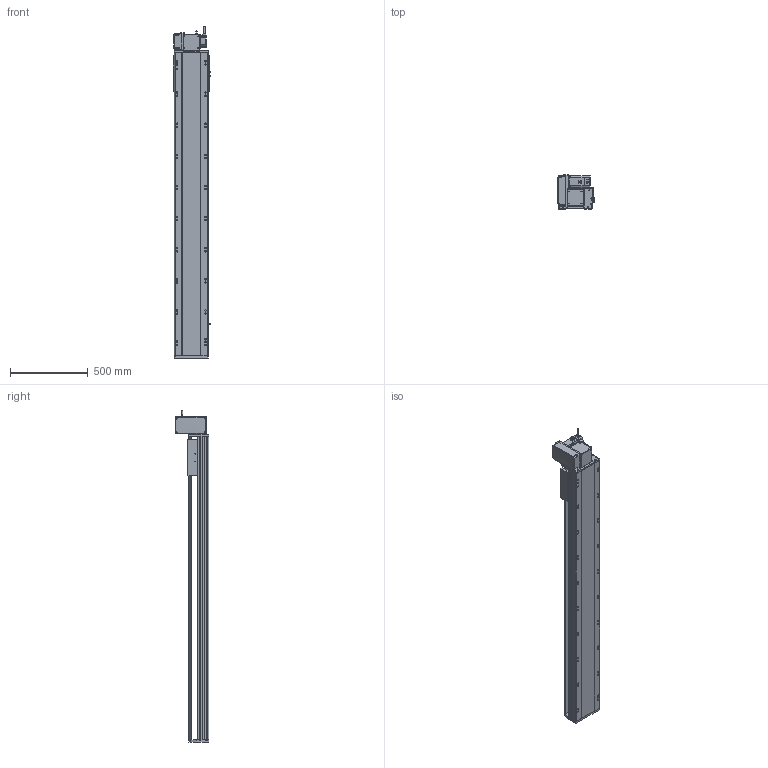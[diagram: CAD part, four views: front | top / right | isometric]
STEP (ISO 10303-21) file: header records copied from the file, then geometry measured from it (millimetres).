
FILE_DESCRIPTION (( 'STEP AP214' ), '1' );
FILE_NAME ('RTB22S-XX-1600-LW-M75-C4.STEP', '2025-12-12T05:58:27', ( '' ), ( '' ), 'SwSTEP 2.0', 'SolidWorks 2018', '' );
FILE_SCHEMA (( 'AUTOMOTIVE_DESIGN' ));
Length unit declared in the file: millimetre
Products named in the file (14): RTB22S-LW-々湍釱蚾饜^RTB22S-XX-XX-LW-M75-C4; 750W萇儂^RTB22S-XX-XX-LW-M75-C4; RTB22S-XX-1600-LW-M75-C4; RTB22S-L-004賑釱^RTB22S-XX-XX-LW-M75-C4; RTB22S-GY-005P^RTB22S-LW-々湍釱蚾饜_RTB22S-XX-XX-LW-M75-C4; RTB22S-GY-007奻裔^RTB22S-XX-XX-LW-M75-C4; RTH22-GY-013外置感应片^RTB22S-XX-XX-LW-M75-C4; RTB22S-GY-014--々湍釱^RTB22S-LW-々湍釱蚾饜_RTB22S-XX-XX-LW-M75-C4; RTB22S-L-011菁釱^RTB22S-XX-XX-LW-M75-C4; RTB22S-GY-018P^RTB22S-LW-々湍釱蚾饜_RTB22S-XX-XX-LW-M75-C4; RTB22S-GY-001耜裔^RTB22S-XX-XX-LW-M75-C4; RTB22S-GY-017P^RTB22S-LW-々湍釱蚾饜_RTB22S-XX-XX-LW-M75-C4; RTB22S-GY-008-M75--萇儂啣^RTB22S-LW-々湍釱蚾饜_RTB22S-XX-XX-LW-M75-C4; OMRON EE-SX672 传感器^RTB22S-XX-XX-LW-M75-C4
Assembly tree (16 placements, depth 3):
  RTB22S-XX-1600-LW-M75-C4
    RTB22S-L-011菁釱^RTB22S-XX-XX-LW-M75-C4
    RTB22S-GY-001耜裔^RTB22S-XX-XX-LW-M75-C4
    750W萇儂^RTB22S-XX-XX-LW-M75-C4
    RTB22S-GY-007奻裔^RTB22S-XX-XX-LW-M75-C4
    RTB22S-L-004賑釱^RTB22S-XX-XX-LW-M75-C4
    RTH22-GY-013外置感应片^RTB22S-XX-XX-LW-M75-C4
    OMRON EE-SX672 传感器^RTB22S-XX-XX-LW-M75-C4  x3
    RTB22S-LW-々湍釱蚾饜^RTB22S-XX-XX-LW-M75-C4
      RTB22S-GY-014--々湍釱^RTB22S-LW-々湍釱蚾饜_RTB22S-XX-XX-LW-M75-C4
      RTB22S-GY-017P^RTB22S-LW-々湍釱蚾饜_RTB22S-XX-XX-LW-M75-C4  x2
      RTB22S-GY-005P^RTB22S-LW-々湍釱蚾饜_RTB22S-XX-XX-LW-M75-C4
      RTB22S-GY-008-M75--萇儂啣^RTB22S-LW-々湍釱蚾饜_RTB22S-XX-XX-LW-M75-C4
      RTB22S-GY-018P^RTB22S-LW-々湍釱蚾饜_RTB22S-XX-XX-LW-M75-C4
Bounding box: 238.5 x 215.5 x 2132.2 mm (x, y, z)
Volume: 28283003.8 mm3; surface area: 2914140 mm2
Topology: 15 solids, 15 shells, 2019 faces, 5486 edges, 3512 vertices
Faces by surface type: plane 919, cylinder 646, bspline 296, cone 146, sphere 8, torus 4
Entity records: 54084 total; most frequent: CARTESIAN_POINT 15468, ORIENTED_EDGE 7744, DIRECTION 7486, EDGE_CURVE 3872, AXIS2_PLACEMENT_3D 2654, VERTEX_POINT 2516, VECTOR 2178, LINE 2178
